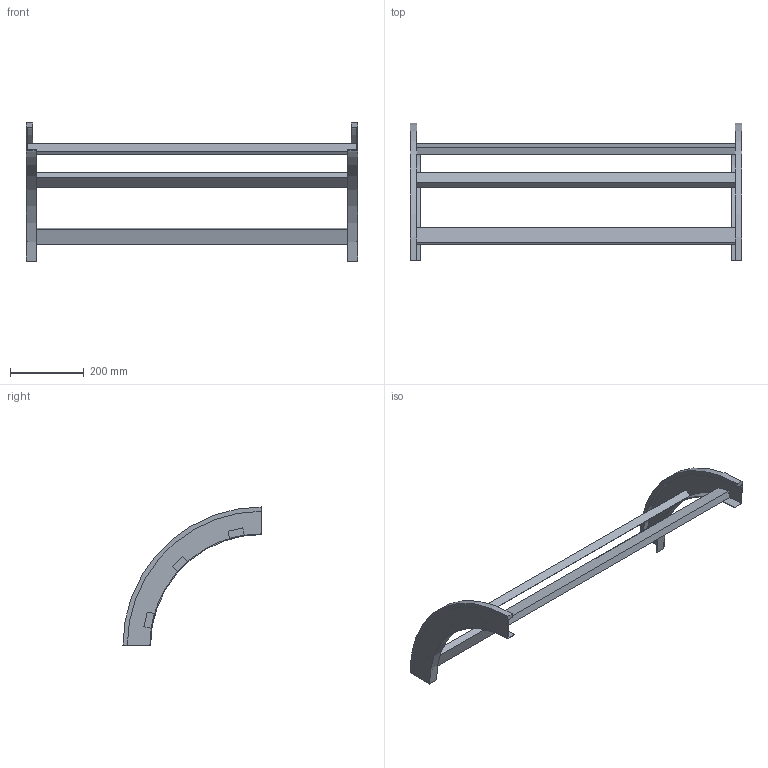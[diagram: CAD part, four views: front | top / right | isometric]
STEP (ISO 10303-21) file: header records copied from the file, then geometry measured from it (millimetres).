
FILE_DESCRIPTION (( 'STEP AP214' ), '1' );
FILE_NAME ('B2_33B3C900.step', '2025-02-21T15:06:23', ( '' ), ( '' ), 'SwSTEP 2.0', 'SolidWorks 2023', '' );
FILE_SCHEMA (( 'AUTOMOTIVE_DESIGN' ));
Length unit declared in the file: millimetre
Products named in the file (3): TRAVERSINO_900; B2_33B3C900; B2_LONGH.DISCESA_90°_H75_R300
Assembly tree (5 placements, depth 2):
  B2_33B3C900
    B2_LONGH.DISCESA_90°_H75_R300  x2
    TRAVERSINO_900  x3
Bounding box: 900 x 375 x 375 mm (x, y, z)
Volume: 2606179.7 mm3; surface area: 579337.2 mm2
Topology: 5 solids, 5 shells, 38 faces, 84 edges, 56 vertices
Faces by surface type: plane 30, cylinder 8
Entity records: 560 total; most frequent: DIRECTION 92, CARTESIAN_POINT 84, ORIENTED_EDGE 72, EDGE_CURVE 36, AXIS2_PLACEMENT_3D 32, LINE 28, VECTOR 28, VERTEX_POINT 24
